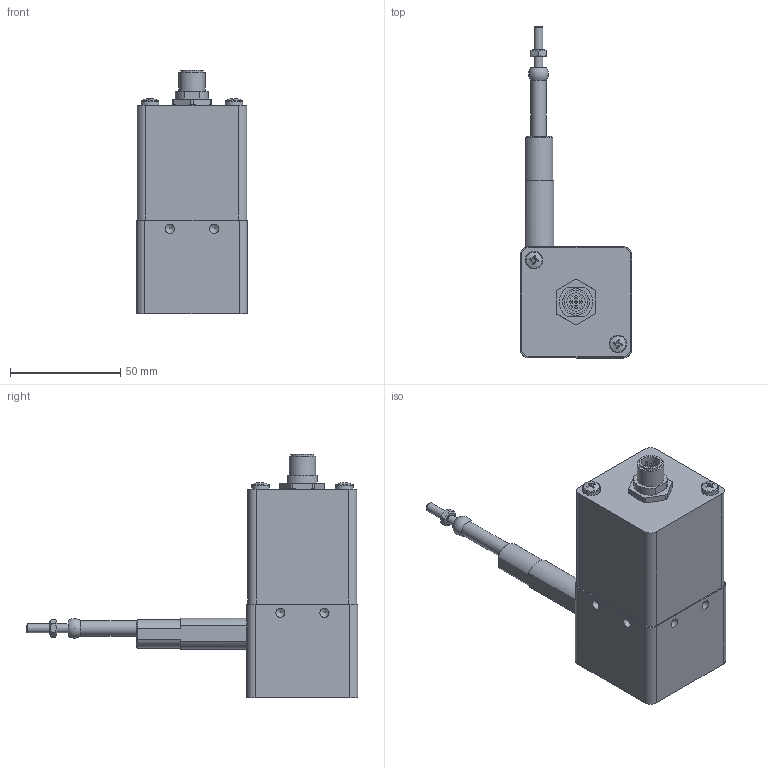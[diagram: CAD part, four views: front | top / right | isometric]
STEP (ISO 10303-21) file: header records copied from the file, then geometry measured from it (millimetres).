
FILE_DESCRIPTION((''),'2;1');
FILE_NAME('K:\Daten\WS10-2000-M4.stp','2016-12-21T14:47:58',('kamp'),(''),'Autodesk Inventor 2008','Autodesk Inventor 2008','');
FILE_SCHEMA(('AUTOMOTIVE_DESIGN { 1 0 10303 214 1 1 1 1 }'));
Length unit declared in the file: millimetre
Products named in the file (1): Bauteil3
Bounding box: 50.35 x 150.35 x 110.4 mm (x, y, z)
Volume: 244046.6 mm3; surface area: 28899.7 mm2
Topology: 1 solids, 1 shells, 250 faces, 670 edges, 438 vertices
Faces by surface type: plane 145, cylinder 47, bspline 42, cone 8, sphere 6, torus 2
Full cylindrical faces by diameter (mm): 1 x5, 4 x2, 7 x1, 8 x2, 8.3 x1, 8.5 x2, 10.4 x1, 12 x1
Entity records: 7987 total; most frequent: CARTESIAN_POINT 2207, ORIENTED_EDGE 1210, DIRECTION 1035, EDGE_CURVE 605, VERTEX_POINT 420, AXIS2_PLACEMENT_3D 346, VECTOR 343, LINE 343
